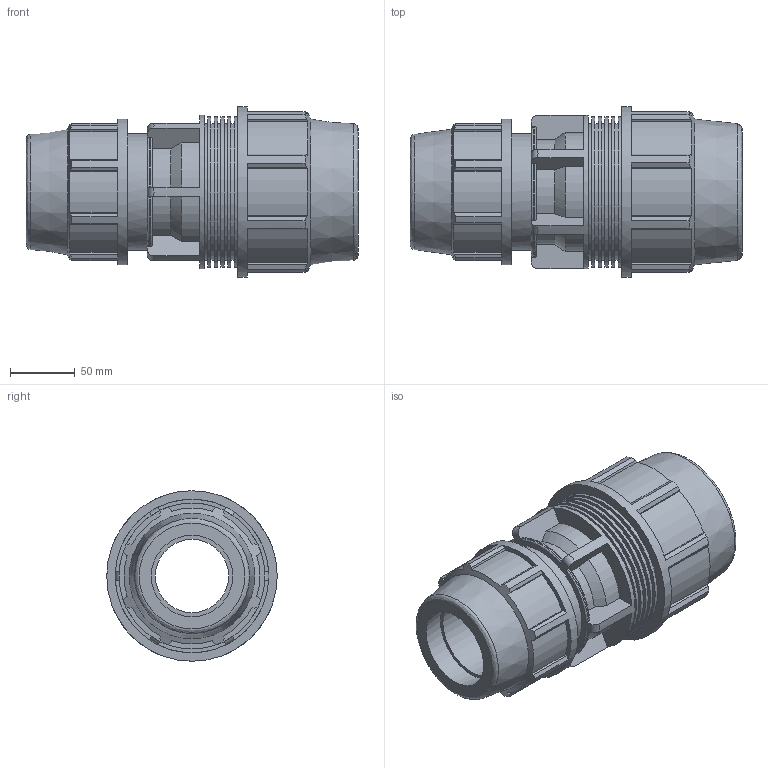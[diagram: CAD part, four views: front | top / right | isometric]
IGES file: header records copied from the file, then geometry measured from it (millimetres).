
Global section: file name: 871100075063_181100075063.ipt; native system: Autodesk Inventor 2015; preprocessor: unknown; author: KIM; date: 20170608.042519; units: millimetre
Bounding box: 257 x 132 x 132 mm (x, y, z)
Volume: 1351630.7 mm3; surface area: 201855.9 mm2
Topology: 1 solids, 1 shells, 207 faces, 580 edges, 392 vertices
Faces by surface type: plane 123, cylinder 54, revolution 20, cone 10
Full cylindrical faces by diameter (mm): 90.4 x1, 105.6 x5, 113 x1, 116.424 x5, 118.8 x1, 132 x1
